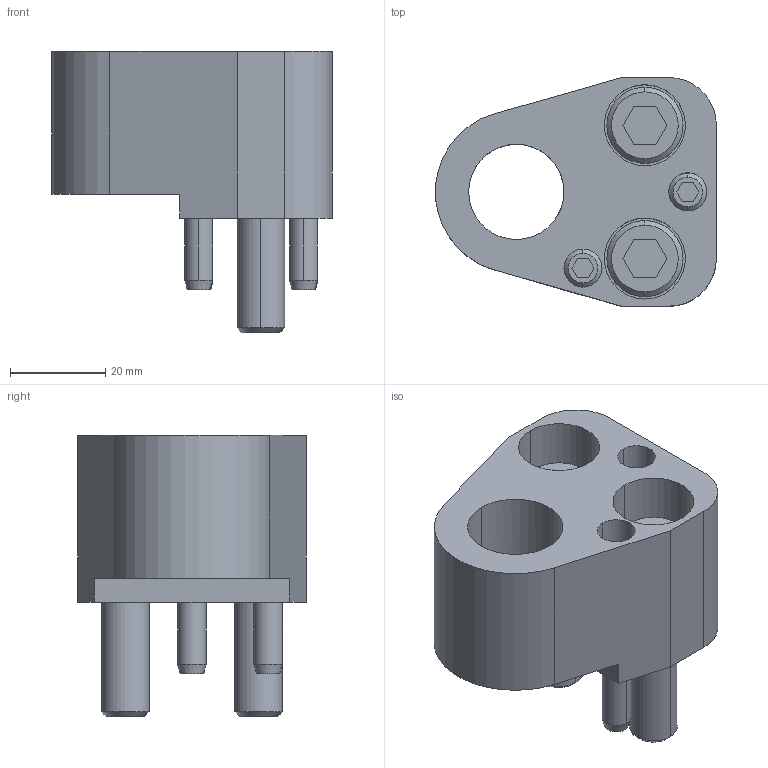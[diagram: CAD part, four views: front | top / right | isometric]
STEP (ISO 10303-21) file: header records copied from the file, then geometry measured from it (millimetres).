
FILE_DESCRIPTION(/* description */ (''),/* implementation_level */ '2;1');
FILE_NAME(/* name */ '3d_hapfr20_04016_r00.stp',/* time_stamp */ '2011-01-10T14:14:56+09:00',/* author */ ('MISUMI'),/* organization */ (''),/* preprocessor_version */ 'ST-DEVELOPER v11',/* originating_system */ 'UGS - NX 5.0',/* authorisation */ '');
FILE_SCHEMA (('CONFIG_CONTROL_DESIGN'));
Length unit declared in the file: millimetre
Products named in the file (1): 3d_hapfr20_04016_r00
Bounding box: 58.94 x 48 x 59 mm (x, y, z)
Volume: 63607.3 mm3; surface area: 22729.9 mm2
Topology: 7 solids, 7 shells, 134 faces, 298 edges, 191 vertices
Faces by surface type: plane 61, cylinder 47, cone 26
Entity records: 3858 total; most frequent: CARTESIAN_POINT 683, DIRECTION 682, ORIENTED_EDGE 596, EDGE_CURVE 298, AXIS2_PLACEMENT_3D 256, VERTEX_POINT 191, LINE 170, VECTOR 170
